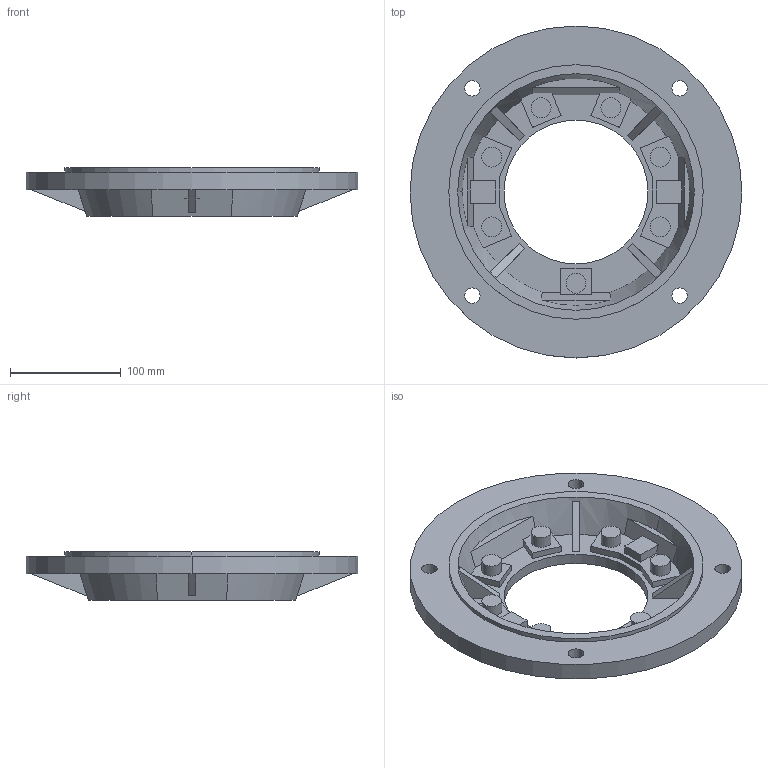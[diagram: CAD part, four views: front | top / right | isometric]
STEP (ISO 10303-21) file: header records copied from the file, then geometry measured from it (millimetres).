
FILE_DESCRIPTION(/* description */ (''),/* implementation_level */ '2;1');
FILE_NAME(/* name */ '2_FLANGIA (CAMPANA) LATERALE FB B103',/* time_stamp */ '2025-10-22T11:11:48+02:00',/* author */ (''),/* organization */ (''),/* preprocessor_version */ 'ST-DEVELOPER v19.2',/* originating_system */ 'Rhino 8.23',/* authorisation */ '');
FILE_SCHEMA (('CONFIG_CONTROL_DESIGN'));
Length unit declared in the file: millimetre
Products named in the file (3): Document; BFU103FB; Blocco 01
Bounding box: 300 x 300 x 44 mm (x, y, z)
Volume: 959648.8 mm3; surface area: 183525.5 mm2
Topology: 5 solids, 5 shells, 162 faces, 432 edges, 288 vertices
Faces by surface type: plane 124, cylinder 28, bspline 10
Entity records: 6319 total; most frequent: CARTESIAN_POINT 1704, ORIENTED_EDGE 864, EDGE_CURVE 432, DIRECTION 376, B_SPLINE_CURVE_WITH_KNOTS 318, VERTEX_POINT 288, AXIS2_PLACEMENT_3D 264, EDGE_LOOP 184
